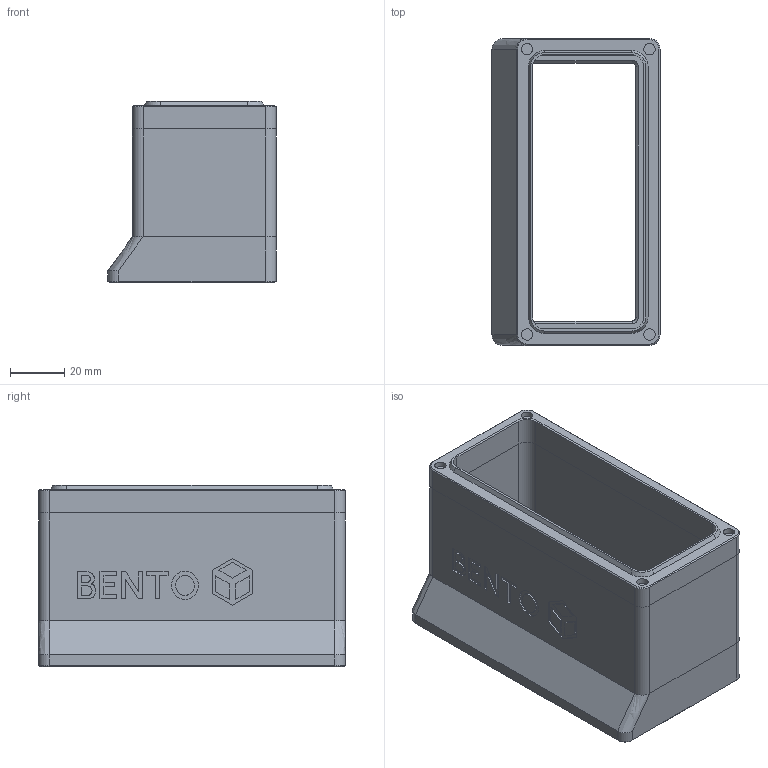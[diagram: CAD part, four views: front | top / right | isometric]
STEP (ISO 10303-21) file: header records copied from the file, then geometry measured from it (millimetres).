
FILE_DESCRIPTION(/* description */ (''),/* implementation_level */ '2;1');
FILE_NAME(/* name */ 'fan_shroud_5015_4mm.stp',/* time_stamp */ '2023-12-22T16:31:39+01:00',/* author */ ('Despo'),/* organization */ (''),/* preprocessor_version */ 'ST-DEVELOPER v19.2',/* originating_system */ 'Autodesk Inventor 2024',/* authorisation */ '');
FILE_SCHEMA (('AUTOMOTIVE_DESIGN { 1 0 10303 214 3 1 1 }'));
Length unit declared in the file: millimetre
Products named in the file (1): fan_shroud_5015_4mm
Bounding box: 61.8 x 112.8 x 66.7 mm (x, y, z)
Volume: 124189.6 mm3; surface area: 54724.2 mm2
Topology: 3 solids, 3 shells, 265 faces, 671 edges, 436 vertices
Faces by surface type: plane 144, bspline 61, cylinder 40, cone 20
Full cylindrical faces by diameter (mm): 4.2 x8
Entity records: 8766 total; most frequent: CARTESIAN_POINT 2354, ORIENTED_EDGE 1342, DIRECTION 1085, EDGE_CURVE 671, LINE 447, VECTOR 447, VERTEX_POINT 436, AXIS2_PLACEMENT_3D 319
